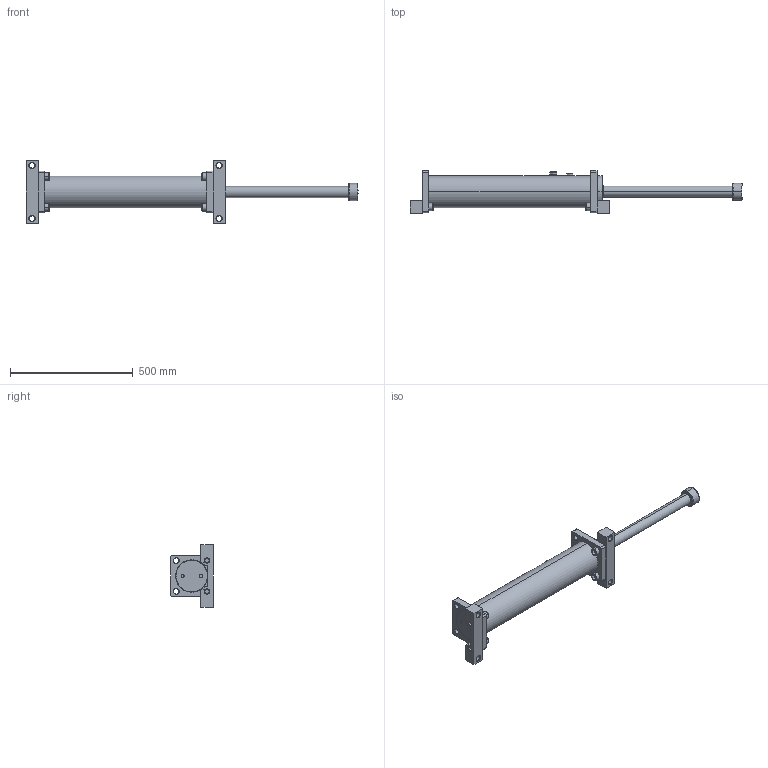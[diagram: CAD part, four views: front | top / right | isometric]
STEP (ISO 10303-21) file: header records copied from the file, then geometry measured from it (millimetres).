
FILE_DESCRIPTION (( 'STEP AP214' ), '1' );
FILE_NAME ('LDD3.0X20.STEP', '2019-01-16T07:28:41', ( 'user' ), ( 'Microsoft' ), 'SwSTEP 2.0', 'SolidWorks 2016', '' );
FILE_SCHEMA (( 'AUTOMOTIVE_DESIGN' ));
Length unit declared in the file: inch
Products named in the file (1): LDD3.0X20
Bounding box: 1351 x 172.5 x 255 mm (x, y, z)
Surface area: 682402.7 mm2 (no closed solid volume)
Topology: 0 solids, 21 shells, 272 faces, 734 edges, 487 vertices
Faces by surface type: plane 103, cylinder 87, cone 52, bspline 30
Entity records: 14250 total; most frequent: CARTESIAN_POINT 7482, DIRECTION 1416, ORIENTED_EDGE 1306, EDGE_CURVE 734, AXIS2_PLACEMENT_3D 533, VERTEX_POINT 487, VECTOR 350, LINE 350
